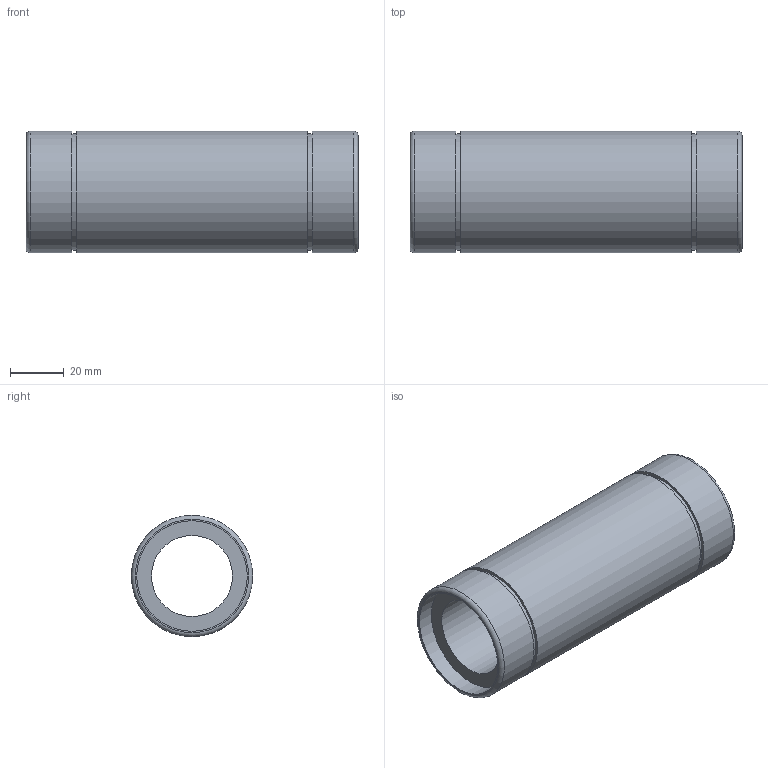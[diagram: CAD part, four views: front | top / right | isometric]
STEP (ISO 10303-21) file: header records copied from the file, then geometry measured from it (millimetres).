
FILE_DESCRIPTION( ( 'Unknown' ), '1' );
FILE_NAME( 'D:/累诀/己绕皋墨飘肺葱胶/11-04-06_档搁累己/01_府聪绢何教/LM L/LM 30L.stp', 'Unknown', ( 'Unknown' ), ( 'Unknown' ), 'PSStep 11.0', 'Unknown', ' ' );
FILE_SCHEMA( ( 'AUTOMOTIVE_DESIGN { 1 0 10303 214 1 1 1 1 }' ) );
Length unit declared in the file: millimetre
Products named in the file (1): 1
Bounding box: 123 x 45 x 45 mm (x, y, z)
Volume: 100488.8 mm3; surface area: 31519 mm2
Topology: 1 solids, 1 shells, 18 faces, 30 edges, 20 vertices
Faces by surface type: plane 8, cylinder 8, torus 2
Full cylindrical faces by diameter (mm): 30 x1, 41 x2, 43 x2, 45 x3
Entity records: 528 total; most frequent: DIRECTION 74, CARTESIAN_POINT 55, AXIS2_PLACEMENT_3D 37, EDGE_LOOP 36, ORIENTED_EDGE 36, FACE_OUTER_BOUND 28, STYLED_ITEM 18, PRESENTATION_STYLE_ASSIGNMENT 18
